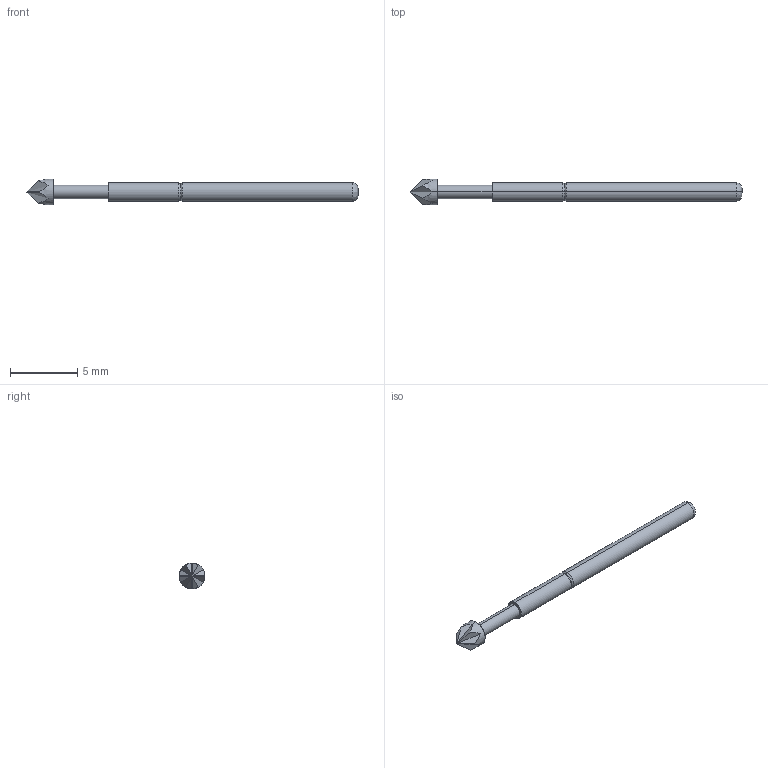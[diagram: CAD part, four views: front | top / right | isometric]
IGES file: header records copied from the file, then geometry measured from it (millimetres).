
Start section: SolidWorks IGES file using analytic representation for surfaces
Global section: file name: Z:\probe solid model mockups\Solidworks models\IGES Files\EPA-2\EPA-2P.IGS; native system: SolidWorks 2006 by SolidWorks Corporation; preprocessor: SolidWorks 2006 by SolidWorks Corporation; author: tsakatani; date: 071220.162352; units: inch
Bounding box: 24.64 x 1.91 x 1.91 mm (x, y, z)
Surface area: 106.9 mm2 (no closed solid volume)
Topology: 0 solids, 0 shells, 29 faces, 222 edges, 222 vertices
Faces by surface type: bspline 21, revolution 8
